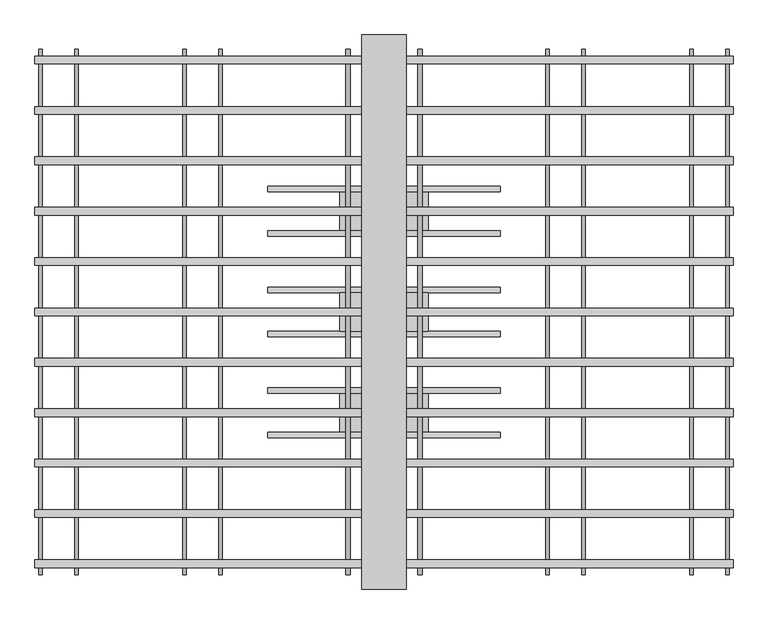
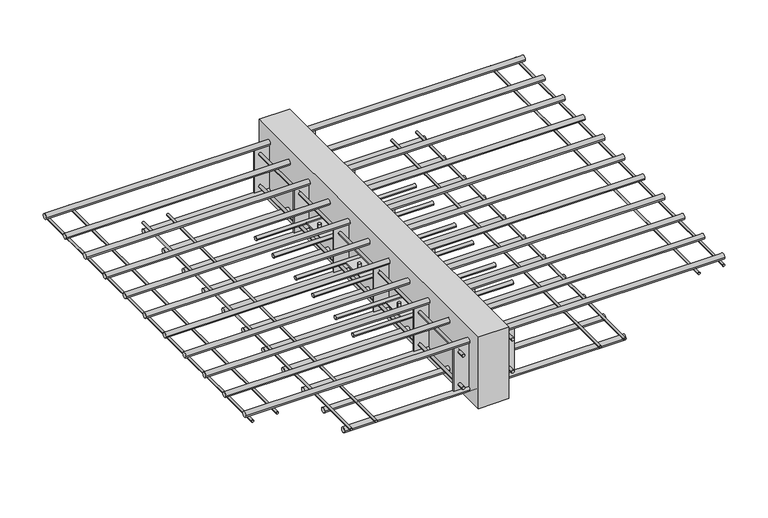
"""IFC4 building model written with IfcOpenShell, lengths in millimetres: proxy geometry, ACINOXplus_Typenreihe_K : KH+ S3."""

from ifc_helpers import new_model, si_unit, point, frame, frame_2d, origin, place, context, project, spatial, polyline, circle_curve, trimmed, segment, composite_curve, outline, extrude, source, transform, mapped, element, save
from ifc_brep_helpers import plane_surface, cylinder_surface, advanced_brep


def generic_models_9565d0d3(model_context):
    return source(origin(), model_context, "Body", "SolidModel", [
        extrude(outline(composite_curve([segment(trimmed(circle_curve(frame_2d((-40.0, -104.0)), 5.0), [point((-45.0, -104.0))], [point((-35.0, -104.0))], False, "CARTESIAN"), True, "CONTINUOUS"), segment(trimmed(circle_curve(frame_2d((-40.0, -104.0)), 5.0), [point((-35.0, -104.0))], [point((-45.0, -104.0))], False, "CARTESIAN"), True, "CONTINUOUS")], self_intersect=False)), frame((-210.0, 0.0, 0.0), z_axis=(1.0, 0.0, 0.0), x_axis=(0.0, 1.0, 0.0)), (0.0, 0.0, 1.0), 420.0),
        extrude(outline(composite_curve([segment(trimmed(circle_curve(frame_2d((40.0, -104.0)), 5.0), [point((35.0, -104.0))], [point((45.0, -104.0))], False, "CARTESIAN"), True, "CONTINUOUS"), segment(trimmed(circle_curve(frame_2d((40.0, -104.0)), 5.0), [point((45.0, -104.0))], [point((35.0, -104.0))], False, "CARTESIAN"), True, "CONTINUOUS")], self_intersect=False)), frame((-210.0, 0.0, 0.0), z_axis=(1.0, 0.0, 0.0), x_axis=(0.0, 1.0, 0.0)), (0.0, 0.0, 1.0), 420.0),
        advanced_brep(
        [(-69.0, 0.0, -89.0), (-61.0, 0.0, -89.0), (61.0, 0.0, -89.0), (69.0, 0.0, -89.0), (-69.0, 0.0, -119.0), (-61.0, 0.0, -119.0), (61.0, 0.0, -119.0), (69.0, 0.0, -119.0), (-69.0, 0.0, -102.5), (-61.0, 0.0, -102.5), (-61.0, 0.0, -105.5), (-69.0, 0.0, -105.5), (61.0, 0.0, -102.5), (69.0, 0.0, -102.5), (69.0, 0.0, -105.5), (61.0, 0.0, -105.5), (80.0, 35.0, -102.5), (-80.0, 35.0, -102.5), (-80.0, -35.0, -102.5), (80.0, -35.0, -102.5), (80.0, 35.0, -105.5), (80.0, -35.0, -105.5), (-80.0, -35.0, -105.5), (-80.0, 35.0, -105.5)],
        [
            (0, 1, circle_curve(frame((-65.0, 0.0, -89.0), z_axis=(0.0, 0.0, 1.0), x_axis=(1.0, 0.0, 0.0)), 4.0)),
            (1, 0, circle_curve(frame((-65.0, 0.0, -89.0), z_axis=(0.0, 0.0, 1.0), x_axis=(1.0, 0.0, 0.0)), 4.0)),
            (2, 3, circle_curve(frame((65.0, 0.0, -89.0), z_axis=(0.0, 0.0, 1.0), x_axis=(1.0, 0.0, 0.0)), 4.0)),
            (3, 2, circle_curve(frame((65.0, 0.0, -89.0), z_axis=(0.0, 0.0, 1.0), x_axis=(1.0, 0.0, 0.0)), 4.0)),
            (4, 5, circle_curve(frame((-65.0, 0.0, -119.0), z_axis=(0.0, 0.0, -1.0), x_axis=(1.0, 0.0, 0.0)), 4.0)),
            (5, 4, circle_curve(frame((-65.0, 0.0, -119.0), z_axis=(0.0, 0.0, -1.0), x_axis=(1.0, 0.0, 0.0)), 4.0)),
            (6, 7, circle_curve(frame((65.0, 0.0, -119.0), z_axis=(0.0, 0.0, -1.0), x_axis=(1.0, 0.0, 0.0)), 4.0)),
            (7, 6, circle_curve(frame((65.0, 0.0, -119.0), z_axis=(0.0, 0.0, -1.0), x_axis=(1.0, 0.0, 0.0)), 4.0)),
            (0, 8),
            (8, 9, circle_curve(frame((-65.0, 0.0, -102.5), z_axis=(0.0, 0.0, 1.0), x_axis=(1.0, 0.0, 0.0)), 4.0)),
            (9, 1),
            (5, 10),
            (10, 11, circle_curve(frame((-65.0, 0.0, -105.5), z_axis=(0.0, 0.0, -1.0), x_axis=(1.0, 0.0, 0.0)), 4.0)),
            (11, 4),
            (9, 8, circle_curve(frame((-65.0, 0.0, -102.5), z_axis=(0.0, 0.0, 1.0), x_axis=(1.0, 0.0, 0.0)), 4.0)),
            (11, 10, circle_curve(frame((-65.0, 0.0, -105.5), z_axis=(0.0, 0.0, -1.0), x_axis=(1.0, 0.0, 0.0)), 4.0)),
            (2, 12),
            (12, 13, circle_curve(frame((65.0, 0.0, -102.5), z_axis=(0.0, 0.0, 1.0), x_axis=(1.0, 0.0, 0.0)), 4.0)),
            (13, 3),
            (7, 14),
            (14, 15, circle_curve(frame((65.0, 0.0, -105.5), z_axis=(0.0, 0.0, -1.0), x_axis=(1.0, 0.0, 0.0)), 4.0)),
            (15, 6),
            (13, 12, circle_curve(frame((65.0, 0.0, -102.5), z_axis=(0.0, 0.0, 1.0), x_axis=(1.0, 0.0, 0.0)), 4.0)),
            (15, 14, circle_curve(frame((65.0, 0.0, -105.5), z_axis=(0.0, 0.0, -1.0), x_axis=(1.0, 0.0, 0.0)), 4.0)),
            (16, 17),
            (17, 18),
            (18, 19),
            (19, 16),
            (20, 21),
            (21, 22),
            (22, 23),
            (23, 20),
            (16, 20),
            (23, 17),
            (22, 18),
            (21, 19),
        ],
        [
            plane_surface(frame((-61.0, 0.0, -89.0), z_axis=(0.0, 0.0, 1.0), x_axis=(0.0, 1.0, 0.0))),
            plane_surface(frame((-61.0, 0.0, -119.0), z_axis=(0.0, 0.0, -1.0), x_axis=(0.0, -1.0, 0.0))),
            cylinder_surface(frame((-65.0, 0.0, -119.0), z_axis=(0.0, 0.0, 1.0), x_axis=(1.0, 0.0, 0.0)), 4.0),
            cylinder_surface(frame((65.0, 0.0, -104.0), z_axis=(0.0, 0.0, 1.0), x_axis=(1.0, 0.0, 0.0)), 4.0),
            plane_surface(frame((-80.0, 35.0, -102.5), z_axis=(0.0, 0.0, 1.0), x_axis=(-1.0, 0.0, 0.0))),
            plane_surface(frame((-80.0, 35.0, -105.5), z_axis=(0.0, 0.0, -1.0), x_axis=(1.0, 0.0, 0.0))),
            plane_surface(frame((80.0, 35.0, -102.5), z_axis=(0.0, 1.0, 0.0), x_axis=(0.0, 0.0, -1.0))),
            plane_surface(frame((-80.0, 35.0, -102.5), z_axis=(-1.0, 0.0, 0.0), x_axis=(0.0, 0.0, -1.0))),
            plane_surface(frame((-80.0, -35.0, -102.5), z_axis=(0.0, -1.0, 0.0), x_axis=(0.0, 0.0, -1.0))),
            plane_surface(frame((80.0, -35.0, -102.5), z_axis=(1.0, 0.0, 0.0), x_axis=(0.0, 0.0, -1.0))),
        ],
        [
            (0, [[1, 2]]),
            (0, [[3, 4]]),
            (1, [[5, 6]]),
            (1, [[7, 8]]),
            (2, [[-1, 9, 10, 11]]),
            (2, [[-6, 12, 13, 14]]),
            (2, [[-2, -11, 15, -9]]),
            (2, [[-5, -14, 16, -12]]),
            (3, [[-3, 17, 18, 19]]),
            (3, [[-8, 20, 21, 22]]),
            (3, [[-4, -19, 23, -17]]),
            (3, [[-7, -22, 24, -20]]),
            (4, [[25, 26, 27, 28], [-10, -15], [-18, -23]]),
            (5, [[29, 30, 31, 32], [-13, -16], [-21, -24]]),
            (6, [[-25, 33, -32, 34]]),
            (7, [[-26, -34, -31, 35]]),
            (8, [[-27, -35, -30, 36]]),
            (9, [[-28, -36, -29, -33]]),
        ],
    ),
        extrude(outline(composite_curve([segment(trimmed(circle_curve(frame_2d((-221.8181818, -104.0)), 5.0), [point((-226.8181818, -104.0))], [point((-216.8181818, -104.0))], False, "CARTESIAN"), True, "CONTINUOUS"), segment(trimmed(circle_curve(frame_2d((-221.8181818, -104.0)), 5.0), [point((-216.8181818, -104.0))], [point((-226.8181818, -104.0))], False, "CARTESIAN"), True, "CONTINUOUS")], self_intersect=False)), frame((-210.0, 0.0, 0.0), z_axis=(1.0, 0.0, 0.0), x_axis=(0.0, 1.0, 0.0)), (0.0, 0.0, 1.0), 420.0),
        extrude(outline(composite_curve([segment(trimmed(circle_curve(frame_2d((-141.8181818, -104.0)), 5.0), [point((-146.8181818, -104.0))], [point((-136.8181818, -104.0))], False, "CARTESIAN"), True, "CONTINUOUS"), segment(trimmed(circle_curve(frame_2d((-141.8181818, -104.0)), 5.0), [point((-136.8181818, -104.0))], [point((-146.8181818, -104.0))], False, "CARTESIAN"), True, "CONTINUOUS")], self_intersect=False)), frame((-210.0, 0.0, 0.0), z_axis=(1.0, 0.0, 0.0), x_axis=(0.0, 1.0, 0.0)), (0.0, 0.0, 1.0), 420.0),
        advanced_brep(
        [(-69.0, -181.8181818, -89.0), (-61.0, -181.8181818, -89.0), (61.0, -181.8181818, -89.0), (69.0, -181.8181818, -89.0), (-69.0, -181.8181818, -119.0), (-61.0, -181.8181818, -119.0), (61.0, -181.8181818, -119.0), (69.0, -181.8181818, -119.0), (-69.0, -181.8181818, -102.5), (-61.0, -181.8181818, -102.5), (-61.0, -181.8181818, -105.5), (-69.0, -181.8181818, -105.5), (61.0, -181.8181818, -102.5), (69.0, -181.8181818, -102.5), (69.0, -181.8181818, -105.5), (61.0, -181.8181818, -105.5), (80.0, -146.8181818, -102.5), (-80.0, -146.8181818, -102.5), (-80.0, -216.8181818, -102.5), (80.0, -216.8181818, -102.5), (80.0, -146.8181818, -105.5), (80.0, -216.8181818, -105.5), (-80.0, -216.8181818, -105.5), (-80.0, -146.8181818, -105.5)],
        [
            (0, 1, circle_curve(frame((-65.0, -181.8181818, -89.0), z_axis=(0.0, 0.0, 1.0), x_axis=(1.0, 0.0, 0.0)), 4.0)),
            (1, 0, circle_curve(frame((-65.0, -181.8181818, -89.0), z_axis=(0.0, 0.0, 1.0), x_axis=(1.0, 0.0, 0.0)), 4.0)),
            (2, 3, circle_curve(frame((65.0, -181.8181818, -89.0), z_axis=(0.0, 0.0, 1.0), x_axis=(1.0, 0.0, 0.0)), 4.0)),
            (3, 2, circle_curve(frame((65.0, -181.8181818, -89.0), z_axis=(0.0, 0.0, 1.0), x_axis=(1.0, 0.0, 0.0)), 4.0)),
            (4, 5, circle_curve(frame((-65.0, -181.8181818, -119.0), z_axis=(0.0, 0.0, -1.0), x_axis=(1.0, 0.0, 0.0)), 4.0)),
            (5, 4, circle_curve(frame((-65.0, -181.8181818, -119.0), z_axis=(0.0, 0.0, -1.0), x_axis=(1.0, 0.0, 0.0)), 4.0)),
            (6, 7, circle_curve(frame((65.0, -181.8181818, -119.0), z_axis=(0.0, 0.0, -1.0), x_axis=(1.0, 0.0, 0.0)), 4.0)),
            (7, 6, circle_curve(frame((65.0, -181.8181818, -119.0), z_axis=(0.0, 0.0, -1.0), x_axis=(1.0, 0.0, 0.0)), 4.0)),
            (0, 8),
            (8, 9, circle_curve(frame((-65.0, -181.8181818, -102.5), z_axis=(0.0, 0.0, 1.0), x_axis=(1.0, 0.0, 0.0)), 4.0)),
            (9, 1),
            (5, 10),
            (10, 11, circle_curve(frame((-65.0, -181.8181818, -105.5), z_axis=(0.0, 0.0, -1.0), x_axis=(1.0, 0.0, 0.0)), 4.0)),
            (11, 4),
            (9, 8, circle_curve(frame((-65.0, -181.8181818, -102.5), z_axis=(0.0, 0.0, 1.0), x_axis=(1.0, 0.0, 0.0)), 4.0)),
            (11, 10, circle_curve(frame((-65.0, -181.8181818, -105.5), z_axis=(0.0, 0.0, -1.0), x_axis=(1.0, 0.0, 0.0)), 4.0)),
            (2, 12),
            (12, 13, circle_curve(frame((65.0, -181.8181818, -102.5), z_axis=(0.0, 0.0, 1.0), x_axis=(1.0, 0.0, 0.0)), 4.0)),
            (13, 3),
            (7, 14),
            (14, 15, circle_curve(frame((65.0, -181.8181818, -105.5), z_axis=(0.0, 0.0, -1.0), x_axis=(1.0, 0.0, 0.0)), 4.0)),
            (15, 6),
            (13, 12, circle_curve(frame((65.0, -181.8181818, -102.5), z_axis=(0.0, 0.0, 1.0), x_axis=(1.0, 0.0, 0.0)), 4.0)),
            (15, 14, circle_curve(frame((65.0, -181.8181818, -105.5), z_axis=(0.0, 0.0, -1.0), x_axis=(1.0, 0.0, 0.0)), 4.0)),
            (16, 17),
            (17, 18),
            (18, 19),
            (19, 16),
            (20, 21),
            (21, 22),
            (22, 23),
            (23, 20),
            (16, 20),
            (23, 17),
            (22, 18),
            (21, 19),
        ],
        [
            plane_surface(frame((-61.0, -181.8181818, -89.0), z_axis=(0.0, 0.0, 1.0), x_axis=(0.0, 1.0, 0.0))),
            plane_surface(frame((-61.0, -181.8181818, -119.0), z_axis=(0.0, 0.0, -1.0), x_axis=(0.0, -1.0, 0.0))),
            cylinder_surface(frame((-65.0, -181.8181818, -119.0), z_axis=(0.0, 0.0, 1.0), x_axis=(1.0, 0.0, 0.0)), 4.0),
            cylinder_surface(frame((65.0, -181.8181818, -104.0), z_axis=(0.0, 0.0, 1.0), x_axis=(1.0, 0.0, 0.0)), 4.0),
            plane_surface(frame((-80.0, -146.8181818, -102.5), z_axis=(0.0, 0.0, 1.0), x_axis=(-1.0, 0.0, 0.0))),
            plane_surface(frame((-80.0, -146.8181818, -105.5), z_axis=(0.0, 0.0, -1.0), x_axis=(1.0, 0.0, 0.0))),
            plane_surface(frame((80.0, -146.8181818, -102.5), z_axis=(0.0, 1.0, 0.0), x_axis=(0.0, 0.0, -1.0))),
            plane_surface(frame((-80.0, -146.8181818, -102.5), z_axis=(-1.0, 0.0, 0.0), x_axis=(0.0, 0.0, -1.0))),
            plane_surface(frame((-80.0, -216.8181818, -102.5), z_axis=(0.0, -1.0, 0.0), x_axis=(0.0, 0.0, -1.0))),
            plane_surface(frame((80.0, -216.8181818, -102.5), z_axis=(1.0, 0.0, 0.0), x_axis=(0.0, 0.0, -1.0))),
        ],
        [
            (0, [[1, 2]]),
            (0, [[3, 4]]),
            (1, [[5, 6]]),
            (1, [[7, 8]]),
            (2, [[-1, 9, 10, 11]]),
            (2, [[-6, 12, 13, 14]]),
            (2, [[-2, -11, 15, -9]]),
            (2, [[-5, -14, 16, -12]]),
            (3, [[-3, 17, 18, 19]]),
            (3, [[-8, 20, 21, 22]]),
            (3, [[-4, -19, 23, -17]]),
            (3, [[-7, -22, 24, -20]]),
            (4, [[25, 26, 27, 28], [-10, -15], [-18, -23]]),
            (5, [[29, 30, 31, 32], [-13, -16], [-21, -24]]),
            (6, [[-25, 33, -32, 34]]),
            (7, [[-26, -34, -31, 35]]),
            (8, [[-27, -35, -30, 36]]),
            (9, [[-28, -36, -29, -33]]),
        ],
    ),
        extrude(outline(composite_curve([segment(trimmed(circle_curve(frame_2d((141.8181818, -104.0)), 5.0), [point((136.8181818, -104.0))], [point((146.8181818, -104.0))], False, "CARTESIAN"), True, "CONTINUOUS"), segment(trimmed(circle_curve(frame_2d((141.8181818, -104.0)), 5.0), [point((146.8181818, -104.0))], [point((136.8181818, -104.0))], False, "CARTESIAN"), True, "CONTINUOUS")], self_intersect=False)), frame((-210.0, 0.0, 0.0), z_axis=(1.0, 0.0, 0.0), x_axis=(0.0, 1.0, 0.0)), (0.0, 0.0, 1.0), 420.0),
        extrude(outline(composite_curve([segment(trimmed(circle_curve(frame_2d((221.8181818, -104.0)), 5.0), [point((216.8181818, -104.0))], [point((226.8181818, -104.0))], False, "CARTESIAN"), True, "CONTINUOUS"), segment(trimmed(circle_curve(frame_2d((221.8181818, -104.0)), 5.0), [point((226.8181818, -104.0))], [point((216.8181818, -104.0))], False, "CARTESIAN"), True, "CONTINUOUS")], self_intersect=False)), frame((-210.0, 0.0, 0.0), z_axis=(1.0, 0.0, 0.0), x_axis=(0.0, 1.0, 0.0)), (0.0, 0.0, 1.0), 420.0),
        advanced_brep(
        [(-69.0, 181.8181818, -89.0), (-61.0, 181.8181818, -89.0), (61.0, 181.8181818, -89.0), (69.0, 181.8181818, -89.0), (-69.0, 181.8181818, -119.0), (-61.0, 181.8181818, -119.0), (61.0, 181.8181818, -119.0), (69.0, 181.8181818, -119.0), (-69.0, 181.8181818, -102.5), (-61.0, 181.8181818, -102.5), (-61.0, 181.8181818, -105.5), (-69.0, 181.8181818, -105.5), (61.0, 181.8181818, -102.5), (69.0, 181.8181818, -102.5), (69.0, 181.8181818, -105.5), (61.0, 181.8181818, -105.5), (80.0, 216.8181818, -102.5), (-80.0, 216.8181818, -102.5), (-80.0, 146.8181818, -102.5), (80.0, 146.8181818, -102.5), (80.0, 216.8181818, -105.5), (80.0, 146.8181818, -105.5), (-80.0, 146.8181818, -105.5), (-80.0, 216.8181818, -105.5)],
        [
            (0, 1, circle_curve(frame((-65.0, 181.8181818, -89.0), z_axis=(0.0, 0.0, 1.0), x_axis=(1.0, 0.0, 0.0)), 4.0)),
            (1, 0, circle_curve(frame((-65.0, 181.8181818, -89.0), z_axis=(0.0, 0.0, 1.0), x_axis=(1.0, 0.0, 0.0)), 4.0)),
            (2, 3, circle_curve(frame((65.0, 181.8181818, -89.0), z_axis=(0.0, 0.0, 1.0), x_axis=(1.0, 0.0, 0.0)), 4.0)),
            (3, 2, circle_curve(frame((65.0, 181.8181818, -89.0), z_axis=(0.0, 0.0, 1.0), x_axis=(1.0, 0.0, 0.0)), 4.0)),
            (4, 5, circle_curve(frame((-65.0, 181.8181818, -119.0), z_axis=(0.0, 0.0, -1.0), x_axis=(1.0, 0.0, 0.0)), 4.0)),
            (5, 4, circle_curve(frame((-65.0, 181.8181818, -119.0), z_axis=(0.0, 0.0, -1.0), x_axis=(1.0, 0.0, 0.0)), 4.0)),
            (6, 7, circle_curve(frame((65.0, 181.8181818, -119.0), z_axis=(0.0, 0.0, -1.0), x_axis=(1.0, 0.0, 0.0)), 4.0)),
            (7, 6, circle_curve(frame((65.0, 181.8181818, -119.0), z_axis=(0.0, 0.0, -1.0), x_axis=(1.0, 0.0, 0.0)), 4.0)),
            (0, 8),
            (8, 9, circle_curve(frame((-65.0, 181.8181818, -102.5), z_axis=(0.0, 0.0, 1.0), x_axis=(1.0, 0.0, 0.0)), 4.0)),
            (9, 1),
            (5, 10),
            (10, 11, circle_curve(frame((-65.0, 181.8181818, -105.5), z_axis=(0.0, 0.0, -1.0), x_axis=(1.0, 0.0, 0.0)), 4.0)),
            (11, 4),
            (9, 8, circle_curve(frame((-65.0, 181.8181818, -102.5), z_axis=(0.0, 0.0, 1.0), x_axis=(1.0, 0.0, 0.0)), 4.0)),
            (11, 10, circle_curve(frame((-65.0, 181.8181818, -105.5), z_axis=(0.0, 0.0, -1.0), x_axis=(1.0, 0.0, 0.0)), 4.0)),
            (2, 12),
            (12, 13, circle_curve(frame((65.0, 181.8181818, -102.5), z_axis=(0.0, 0.0, 1.0), x_axis=(1.0, 0.0, 0.0)), 4.0)),
            (13, 3),
            (7, 14),
            (14, 15, circle_curve(frame((65.0, 181.8181818, -105.5), z_axis=(0.0, 0.0, -1.0), x_axis=(1.0, 0.0, 0.0)), 4.0)),
            (15, 6),
            (13, 12, circle_curve(frame((65.0, 181.8181818, -102.5), z_axis=(0.0, 0.0, 1.0), x_axis=(1.0, 0.0, 0.0)), 4.0)),
            (15, 14, circle_curve(frame((65.0, 181.8181818, -105.5), z_axis=(0.0, 0.0, -1.0), x_axis=(1.0, 0.0, 0.0)), 4.0)),
            (16, 17),
            (17, 18),
            (18, 19),
            (19, 16),
            (20, 21),
            (21, 22),
            (22, 23),
            (23, 20),
            (16, 20),
            (23, 17),
            (22, 18),
            (21, 19),
        ],
        [
            plane_surface(frame((-61.0, 181.8181818, -89.0), z_axis=(0.0, 0.0, 1.0), x_axis=(0.0, 1.0, 0.0))),
            plane_surface(frame((-61.0, 181.8181818, -119.0), z_axis=(0.0, 0.0, -1.0), x_axis=(0.0, -1.0, 0.0))),
            cylinder_surface(frame((-65.0, 181.8181818, -119.0), z_axis=(0.0, 0.0, 1.0), x_axis=(1.0, 0.0, 0.0)), 4.0),
            cylinder_surface(frame((65.0, 181.8181818, -104.0), z_axis=(0.0, 0.0, 1.0), x_axis=(1.0, 0.0, 0.0)), 4.0),
            plane_surface(frame((-80.0, 216.8181818, -102.5), z_axis=(0.0, 0.0, 1.0), x_axis=(-1.0, 0.0, 0.0))),
            plane_surface(frame((-80.0, 216.8181818, -105.5), z_axis=(0.0, 0.0, -1.0), x_axis=(1.0, 0.0, 0.0))),
            plane_surface(frame((80.0, 216.8181818, -102.5), z_axis=(0.0, 1.0, 0.0), x_axis=(0.0, 0.0, -1.0))),
            plane_surface(frame((-80.0, 216.8181818, -102.5), z_axis=(-1.0, 0.0, 0.0), x_axis=(0.0, 0.0, -1.0))),
            plane_surface(frame((-80.0, 146.8181818, -102.5), z_axis=(0.0, -1.0, 0.0), x_axis=(0.0, 0.0, -1.0))),
            plane_surface(frame((80.0, 146.8181818, -102.5), z_axis=(1.0, 0.0, 0.0), x_axis=(0.0, 0.0, -1.0))),
        ],
        [
            (0, [[1, 2]]),
            (0, [[3, 4]]),
            (1, [[5, 6]]),
            (1, [[7, 8]]),
            (2, [[-1, 9, 10, 11]]),
            (2, [[-6, 12, 13, 14]]),
            (2, [[-2, -11, 15, -9]]),
            (2, [[-5, -14, 16, -12]]),
            (3, [[-3, 17, 18, 19]]),
            (3, [[-8, 20, 21, 22]]),
            (3, [[-4, -19, 23, -17]]),
            (3, [[-7, -22, 24, -20]]),
            (4, [[25, 26, 27, 28], [-10, -15], [-18, -23]]),
            (5, [[29, 30, 31, 32], [-13, -16], [-21, -24]]),
            (6, [[-25, 33, -32, 34]]),
            (7, [[-26, -34, -31, 35]]),
            (8, [[-27, -35, -30, 36]]),
            (9, [[-28, -36, -29, -33]]),
        ],
    ),
        extrude(outline(polyline([(40.0, 500.0), (40.0, -500.0), (-40.0, -500.0), (-40.0, 500.0), (40.0, 500.0)])), frame((0.0, 0.0, -200.0), z_axis=(0.0, 0.0, 1.0), x_axis=(1.0, 0.0, 0.0)), (0.0, 0.0, 1.0), 200.0),
        extrude(outline(polyline([(80.0, -271.2272727), (80.0, -274.2272727), (-80.0, -274.2272727), (-80.0, -271.2272727), (80.0, -271.2272727)])), frame((0.0, 0.0, -164.0), z_axis=(0.0, 0.0, 1.0), x_axis=(1.0, 0.0, 0.0)), (0.0, 0.0, 1.0), 120.0),
        extrude(outline(polyline([(80.0, -89.4090909), (80.0, -92.4090909), (-80.0, -92.4090909), (-80.0, -89.4090909), (80.0, -89.4090909)])), frame((0.0, 0.0, -164.0), z_axis=(0.0, 0.0, 1.0), x_axis=(1.0, 0.0, 0.0)), (0.0, 0.0, 1.0), 120.0),
        extrude(outline(polyline([(80.0, 92.4090909), (80.0, 89.4090909), (-80.0, 89.4090909), (-80.0, 92.4090909), (80.0, 92.4090909)])), frame((0.0, 0.0, -164.0), z_axis=(0.0, 0.0, 1.0), x_axis=(1.0, 0.0, 0.0)), (0.0, 0.0, 1.0), 120.0),
        extrude(outline(polyline([(80.0, 274.2272727), (80.0, 271.2272727), (-80.0, 271.2272727), (-80.0, 274.2272727), (80.0, 274.2272727)])), frame((0.0, 0.0, -164.0), z_axis=(0.0, 0.0, 1.0), x_axis=(1.0, 0.0, 0.0)), (0.0, 0.0, 1.0), 120.0),
        extrude(outline(polyline([(80.0, -453.0454545), (80.0, -456.0454545), (-80.0, -456.0454545), (-80.0, -453.0454545), (80.0, -453.0454545)])), frame((0.0, 0.0, -164.0), z_axis=(0.0, 0.0, 1.0), x_axis=(1.0, 0.0, 0.0)), (0.0, 0.0, 1.0), 120.0),
        extrude(outline(polyline([(80.0, 456.0454545), (80.0, 453.0454545), (-80.0, 453.0454545), (-80.0, 456.0454545), (80.0, 456.0454545)])), frame((0.0, 0.0, -164.0), z_axis=(0.0, 0.0, 1.0), x_axis=(1.0, 0.0, 0.0)), (0.0, 0.0, 1.0), 120.0),
        extrude(outline(composite_curve([segment(trimmed(circle_curve(frame_2d((-149.0, -65.0)), 4.0), [point((-149.0, -61.0))], [point((-149.0, -69.0))], False, "CARTESIAN"), True, "CONTINUOUS"), segment(trimmed(circle_curve(frame_2d((-149.0, -65.0)), 4.0), [point((-149.0, -69.0))], [point((-149.0, -61.0))], False, "CARTESIAN"), True, "CONTINUOUS")], self_intersect=False)), frame((0.0, -474.5454545, 0.0), z_axis=(0.0, 1.0, 0.0), x_axis=(0.0, 0.0, 1.0)), (0.0, 0.0, 1.0), 18.5),
        extrude(outline(composite_curve([segment(trimmed(circle_curve(frame_2d((-149.0, -65.0)), 4.0), [point((-149.0, -69.0))], [point((-149.0, -61.0))], False, "CARTESIAN"), True, "CONTINUOUS"), segment(trimmed(circle_curve(frame_2d((-149.0, -65.0)), 4.0), [point((-149.0, -61.0))], [point((-149.0, -69.0))], False, "CARTESIAN"), True, "CONTINUOUS")], self_intersect=False)), frame((0.0, -453.0454545, 0.0), z_axis=(0.0, 1.0, 0.0), x_axis=(0.0, 0.0, 1.0)), (0.0, 0.0, 1.0), 724.2727273),
        extrude(outline(composite_curve([segment(trimmed(circle_curve(frame_2d((-149.0, -65.0)), 4.0), [point((-149.0, -69.0))], [point((-149.0, -61.0))], False, "CARTESIAN"), True, "CONTINUOUS"), segment(trimmed(circle_curve(frame_2d((-149.0, -65.0)), 4.0), [point((-149.0, -61.0))], [point((-149.0, -69.0))], False, "CARTESIAN"), True, "CONTINUOUS")], self_intersect=False)), frame((0.0, 456.0454545, 0.0), z_axis=(0.0, 1.0, 0.0), x_axis=(0.0, 0.0, 1.0)), (0.0, 0.0, 1.0), 18.5),
        extrude(outline(composite_curve([segment(trimmed(circle_curve(frame_2d((-149.0, -65.0)), 4.0), [point((-149.0, -69.0))], [point((-149.0, -61.0))], False, "CARTESIAN"), True, "CONTINUOUS"), segment(trimmed(circle_curve(frame_2d((-149.0, -65.0)), 4.0), [point((-149.0, -61.0))], [point((-149.0, -69.0))], False, "CARTESIAN"), True, "CONTINUOUS")], self_intersect=False)), frame((0.0, 274.2272727, 0.0), z_axis=(0.0, 1.0, 0.0), x_axis=(0.0, 0.0, 1.0)), (0.0, 0.0, 1.0), 178.8181818),
        extrude(outline(composite_curve([segment(trimmed(circle_curve(frame_2d((-149.0, 65.0)), 4.0), [point((-149.0, 69.0))], [point((-149.0, 61.0))], False, "CARTESIAN"), True, "CONTINUOUS"), segment(trimmed(circle_curve(frame_2d((-149.0, 65.0)), 4.0), [point((-149.0, 61.0))], [point((-149.0, 69.0))], False, "CARTESIAN"), True, "CONTINUOUS")], self_intersect=False)), frame((0.0, -474.5454545, 0.0), z_axis=(0.0, 1.0, 0.0), x_axis=(0.0, 0.0, 1.0)), (0.0, 0.0, 1.0), 18.5),
        extrude(outline(composite_curve([segment(trimmed(circle_curve(frame_2d((-149.0, 65.0)), 4.0), [point((-149.0, 61.0))], [point((-149.0, 69.0))], False, "CARTESIAN"), True, "CONTINUOUS"), segment(trimmed(circle_curve(frame_2d((-149.0, 65.0)), 4.0), [point((-149.0, 69.0))], [point((-149.0, 61.0))], False, "CARTESIAN"), True, "CONTINUOUS")], self_intersect=False)), frame((0.0, -453.0454545, 0.0), z_axis=(0.0, 1.0, 0.0), x_axis=(0.0, 0.0, 1.0)), (0.0, 0.0, 1.0), 724.2727273),
        extrude(outline(composite_curve([segment(trimmed(circle_curve(frame_2d((-149.0, 65.0)), 4.0), [point((-149.0, 61.0))], [point((-149.0, 69.0))], False, "CARTESIAN"), True, "CONTINUOUS"), segment(trimmed(circle_curve(frame_2d((-149.0, 65.0)), 4.0), [point((-149.0, 69.0))], [point((-149.0, 61.0))], False, "CARTESIAN"), True, "CONTINUOUS")], self_intersect=False)), frame((0.0, 456.0454545, 0.0), z_axis=(0.0, 1.0, 0.0), x_axis=(0.0, 0.0, 1.0)), (0.0, 0.0, 1.0), 18.5),
        extrude(outline(composite_curve([segment(trimmed(circle_curve(frame_2d((-149.0, 65.0)), 4.0), [point((-149.0, 61.0))], [point((-149.0, 69.0))], False, "CARTESIAN"), True, "CONTINUOUS"), segment(trimmed(circle_curve(frame_2d((-149.0, 65.0)), 4.0), [point((-149.0, 69.0))], [point((-149.0, 61.0))], False, "CARTESIAN"), True, "CONTINUOUS")], self_intersect=False)), frame((0.0, 274.2272727, 0.0), z_axis=(0.0, 1.0, 0.0), x_axis=(0.0, 0.0, 1.0)), (0.0, 0.0, 1.0), 178.8181818),
        extrude(outline(composite_curve([segment(trimmed(circle_curve(frame_2d((-59.0, -65.0)), 4.0), [point((-59.0, -61.0))], [point((-59.0, -69.0))], False, "CARTESIAN"), True, "CONTINUOUS"), segment(trimmed(circle_curve(frame_2d((-59.0, -65.0)), 4.0), [point((-59.0, -69.0))], [point((-59.0, -61.0))], False, "CARTESIAN"), True, "CONTINUOUS")], self_intersect=False)), frame((0.0, -474.5454545, 0.0), z_axis=(0.0, 1.0, 0.0), x_axis=(0.0, 0.0, 1.0)), (0.0, 0.0, 1.0), 18.5),
        extrude(outline(composite_curve([segment(trimmed(circle_curve(frame_2d((-59.0, -65.0)), 4.0), [point((-59.0, -69.0))], [point((-59.0, -61.0))], False, "CARTESIAN"), True, "CONTINUOUS"), segment(trimmed(circle_curve(frame_2d((-59.0, -65.0)), 4.0), [point((-59.0, -61.0))], [point((-59.0, -69.0))], False, "CARTESIAN"), True, "CONTINUOUS")], self_intersect=False)), frame((0.0, -453.0454545, 0.0), z_axis=(0.0, 1.0, 0.0), x_axis=(0.0, 0.0, 1.0)), (0.0, 0.0, 1.0), 724.2727273),
        extrude(outline(composite_curve([segment(trimmed(circle_curve(frame_2d((-59.0, -65.0)), 4.0), [point((-59.0, -69.0))], [point((-59.0, -61.0))], False, "CARTESIAN"), True, "CONTINUOUS"), segment(trimmed(circle_curve(frame_2d((-59.0, -65.0)), 4.0), [point((-59.0, -61.0))], [point((-59.0, -69.0))], False, "CARTESIAN"), True, "CONTINUOUS")], self_intersect=False)), frame((0.0, 456.0454545, 0.0), z_axis=(0.0, 1.0, 0.0), x_axis=(0.0, 0.0, 1.0)), (0.0, 0.0, 1.0), 18.5),
        extrude(outline(composite_curve([segment(trimmed(circle_curve(frame_2d((-59.0, -65.0)), 4.0), [point((-59.0, -69.0))], [point((-59.0, -61.0))], False, "CARTESIAN"), True, "CONTINUOUS"), segment(trimmed(circle_curve(frame_2d((-59.0, -65.0)), 4.0), [point((-59.0, -61.0))], [point((-59.0, -69.0))], False, "CARTESIAN"), True, "CONTINUOUS")], self_intersect=False)), frame((0.0, 274.2272727, 0.0), z_axis=(0.0, 1.0, 0.0), x_axis=(0.0, 0.0, 1.0)), (0.0, 0.0, 1.0), 178.8181818),
        extrude(outline(composite_curve([segment(trimmed(circle_curve(frame_2d((-59.0, 65.0)), 4.0), [point((-59.0, 69.0))], [point((-59.0, 61.0))], False, "CARTESIAN"), True, "CONTINUOUS"), segment(trimmed(circle_curve(frame_2d((-59.0, 65.0)), 4.0), [point((-59.0, 61.0))], [point((-59.0, 69.0))], False, "CARTESIAN"), True, "CONTINUOUS")], self_intersect=False)), frame((0.0, -474.5454545, 0.0), z_axis=(0.0, 1.0, 0.0), x_axis=(0.0, 0.0, 1.0)), (0.0, 0.0, 1.0), 18.5),
        extrude(outline(composite_curve([segment(trimmed(circle_curve(frame_2d((-59.0, 65.0)), 4.0), [point((-59.0, 61.0))], [point((-59.0, 69.0))], False, "CARTESIAN"), True, "CONTINUOUS"), segment(trimmed(circle_curve(frame_2d((-59.0, 65.0)), 4.0), [point((-59.0, 69.0))], [point((-59.0, 61.0))], False, "CARTESIAN"), True, "CONTINUOUS")], self_intersect=False)), frame((0.0, -453.0454545, 0.0), z_axis=(0.0, 1.0, 0.0), x_axis=(0.0, 0.0, 1.0)), (0.0, 0.0, 1.0), 724.2727273),
        extrude(outline(composite_curve([segment(trimmed(circle_curve(frame_2d((-59.0, 65.0)), 4.0), [point((-59.0, 61.0))], [point((-59.0, 69.0))], False, "CARTESIAN"), True, "CONTINUOUS"), segment(trimmed(circle_curve(frame_2d((-59.0, 65.0)), 4.0), [point((-59.0, 69.0))], [point((-59.0, 61.0))], False, "CARTESIAN"), True, "CONTINUOUS")], self_intersect=False)), frame((0.0, 456.0454545, 0.0), z_axis=(0.0, 1.0, 0.0), x_axis=(0.0, 0.0, 1.0)), (0.0, 0.0, 1.0), 18.5),
        extrude(outline(composite_curve([segment(trimmed(circle_curve(frame_2d((-59.0, 65.0)), 4.0), [point((-59.0, 61.0))], [point((-59.0, 69.0))], False, "CARTESIAN"), True, "CONTINUOUS"), segment(trimmed(circle_curve(frame_2d((-59.0, 65.0)), 4.0), [point((-59.0, 69.0))], [point((-59.0, 61.0))], False, "CARTESIAN"), True, "CONTINUOUS")], self_intersect=False)), frame((0.0, 274.2272727, 0.0), z_axis=(0.0, 1.0, 0.0), x_axis=(0.0, 0.0, 1.0)), (0.0, 0.0, 1.0), 178.8181818),
        extrude(outline(composite_curve([segment(trimmed(circle_curve(frame_2d((272.7272727, -171.0)), 7.0), [point((265.7272727, -171.0))], [point((279.7272727, -171.0))], False, "CARTESIAN"), True, "CONTINUOUS"), segment(trimmed(circle_curve(frame_2d((272.7272727, -171.0)), 7.0), [point((279.7272727, -171.0))], [point((265.7272727, -171.0))], False, "CARTESIAN"), True, "CONTINUOUS")], self_intersect=False)), frame((-370.0, 0.0, 0.0), z_axis=(1.0, 0.0, 0.0), x_axis=(0.0, 1.0, 0.0)), (0.0, 0.0, 1.0), 740.0),
        extrude(outline(composite_curve([segment(trimmed(circle_curve(frame_2d((181.8181818, -171.0)), 7.0), [point((174.8181818, -171.0))], [point((188.8181818, -171.0))], False, "CARTESIAN"), True, "CONTINUOUS"), segment(trimmed(circle_curve(frame_2d((181.8181818, -171.0)), 7.0), [point((188.8181818, -171.0))], [point((174.8181818, -171.0))], False, "CARTESIAN"), True, "CONTINUOUS")], self_intersect=False)), frame((-370.0, 0.0, 0.0), z_axis=(1.0, 0.0, 0.0), x_axis=(0.0, 1.0, 0.0)), (0.0, 0.0, 1.0), 740.0),
        extrude(outline(composite_curve([segment(trimmed(circle_curve(frame_2d((90.9090909, -171.0)), 7.0), [point((83.9090909, -171.0))], [point((97.9090909, -171.0))], False, "CARTESIAN"), True, "CONTINUOUS"), segment(trimmed(circle_curve(frame_2d((90.9090909, -171.0)), 7.0), [point((97.9090909, -171.0))], [point((83.9090909, -171.0))], False, "CARTESIAN"), True, "CONTINUOUS")], self_intersect=False)), frame((-370.0, 0.0, 0.0), z_axis=(1.0, 0.0, 0.0), x_axis=(0.0, 1.0, 0.0)), (0.0, 0.0, 1.0), 740.0),
        extrude(outline(composite_curve([segment(trimmed(circle_curve(frame_2d((0.0, -171.0)), 7.0), [point((-7.0, -171.0))], [point((7.0, -171.0))], False, "CARTESIAN"), True, "CONTINUOUS"), segment(trimmed(circle_curve(frame_2d((0.0, -171.0)), 7.0), [point((7.0, -171.0))], [point((-7.0, -171.0))], False, "CARTESIAN"), True, "CONTINUOUS")], self_intersect=False)), frame((-370.0, 0.0, 0.0), z_axis=(1.0, 0.0, 0.0), x_axis=(0.0, 1.0, 0.0)), (0.0, 0.0, 1.0), 740.0),
        extrude(outline(composite_curve([segment(trimmed(circle_curve(frame_2d((-90.9090909, -171.0)), 7.0), [point((-97.9090909, -171.0))], [point((-83.9090909, -171.0))], False, "CARTESIAN"), True, "CONTINUOUS"), segment(trimmed(circle_curve(frame_2d((-90.9090909, -171.0)), 7.0), [point((-83.9090909, -171.0))], [point((-97.9090909, -171.0))], False, "CARTESIAN"), True, "CONTINUOUS")], self_intersect=False)), frame((-370.0, 0.0, 0.0), z_axis=(1.0, 0.0, 0.0), x_axis=(0.0, 1.0, 0.0)), (0.0, 0.0, 1.0), 740.0),
        extrude(outline(composite_curve([segment(trimmed(circle_curve(frame_2d((-181.8181818, -171.0)), 7.0), [point((-188.8181818, -171.0))], [point((-174.8181818, -171.0))], False, "CARTESIAN"), True, "CONTINUOUS"), segment(trimmed(circle_curve(frame_2d((-181.8181818, -171.0)), 7.0), [point((-174.8181818, -171.0))], [point((-188.8181818, -171.0))], False, "CARTESIAN"), True, "CONTINUOUS")], self_intersect=False)), frame((-370.0, 0.0, 0.0), z_axis=(1.0, 0.0, 0.0), x_axis=(0.0, 1.0, 0.0)), (0.0, 0.0, 1.0), 740.0),
        extrude(outline(composite_curve([segment(trimmed(circle_curve(frame_2d((-272.7272727, -171.0)), 7.0), [point((-279.7272727, -171.0))], [point((-265.7272727, -171.0))], False, "CARTESIAN"), True, "CONTINUOUS"), segment(trimmed(circle_curve(frame_2d((-272.7272727, -171.0)), 7.0), [point((-265.7272727, -171.0))], [point((-279.7272727, -171.0))], False, "CARTESIAN"), True, "CONTINUOUS")], self_intersect=False)), frame((-370.0, 0.0, 0.0), z_axis=(1.0, 0.0, 0.0), x_axis=(0.0, 1.0, 0.0)), (0.0, 0.0, 1.0), 740.0),
        extrude(outline(composite_curve([segment(trimmed(circle_curve(frame_2d((363.6363636, -171.0)), 7.0), [point((356.6363636, -171.0))], [point((370.6363636, -171.0))], False, "CARTESIAN"), True, "CONTINUOUS"), segment(trimmed(circle_curve(frame_2d((363.6363636, -171.0)), 7.0), [point((370.6363636, -171.0))], [point((356.6363636, -171.0))], False, "CARTESIAN"), True, "CONTINUOUS")], self_intersect=False)), frame((-370.0, 0.0, 0.0), z_axis=(1.0, 0.0, 0.0), x_axis=(0.0, 1.0, 0.0)), (0.0, 0.0, 1.0), 740.0),
        extrude(outline(composite_curve([segment(trimmed(circle_curve(frame_2d((454.5454545, -171.0)), 7.0), [point((447.5454545, -171.0))], [point((461.5454545, -171.0))], False, "CARTESIAN"), True, "CONTINUOUS"), segment(trimmed(circle_curve(frame_2d((454.5454545, -171.0)), 7.0), [point((461.5454545, -171.0))], [point((447.5454545, -171.0))], False, "CARTESIAN"), True, "CONTINUOUS")], self_intersect=False)), frame((-370.0, 0.0, 0.0), z_axis=(1.0, 0.0, 0.0), x_axis=(0.0, 1.0, 0.0)), (0.0, 0.0, 1.0), 740.0),
        extrude(outline(composite_curve([segment(trimmed(circle_curve(frame_2d((-363.6363636, -171.0)), 7.0), [point((-370.6363636, -171.0))], [point((-356.6363636, -171.0))], False, "CARTESIAN"), True, "CONTINUOUS"), segment(trimmed(circle_curve(frame_2d((-363.6363636, -171.0)), 7.0), [point((-356.6363636, -171.0))], [point((-370.6363636, -171.0))], False, "CARTESIAN"), True, "CONTINUOUS")], self_intersect=False)), frame((-370.0, 0.0, 0.0), z_axis=(1.0, 0.0, 0.0), x_axis=(0.0, 1.0, 0.0)), (0.0, 0.0, 1.0), 740.0),
        extrude(outline(composite_curve([segment(trimmed(circle_curve(frame_2d((-454.5454545, -171.0)), 7.0), [point((-461.5454545, -171.0))], [point((-447.5454545, -171.0))], False, "CARTESIAN"), True, "CONTINUOUS"), segment(trimmed(circle_curve(frame_2d((-454.5454545, -171.0)), 7.0), [point((-447.5454545, -171.0))], [point((-461.5454545, -171.0))], False, "CARTESIAN"), True, "CONTINUOUS")], self_intersect=False)), frame((-370.0, 0.0, 0.0), z_axis=(1.0, 0.0, 0.0), x_axis=(0.0, 1.0, 0.0)), (0.0, 0.0, 1.0), 740.0),
        extrude(outline(composite_curve([segment(trimmed(circle_curve(frame_2d((272.7272727, -37.0)), 7.0), [point((265.7272727, -37.0))], [point((279.7272727, -37.0))], False, "CARTESIAN"), True, "CONTINUOUS"), segment(trimmed(circle_curve(frame_2d((272.7272727, -37.0)), 7.0), [point((279.7272727, -37.0))], [point((265.7272727, -37.0))], False, "CARTESIAN"), True, "CONTINUOUS")], self_intersect=False)), frame((-630.0, 0.0, 0.0), z_axis=(1.0, 0.0, 0.0), x_axis=(0.0, 1.0, 0.0)), (0.0, 0.0, 1.0), 1260.0),
        extrude(outline(composite_curve([segment(trimmed(circle_curve(frame_2d((181.8181818, -37.0)), 7.0), [point((174.8181818, -37.0))], [point((188.8181818, -37.0))], False, "CARTESIAN"), True, "CONTINUOUS"), segment(trimmed(circle_curve(frame_2d((181.8181818, -37.0)), 7.0), [point((188.8181818, -37.0))], [point((174.8181818, -37.0))], False, "CARTESIAN"), True, "CONTINUOUS")], self_intersect=False)), frame((-630.0, 0.0, 0.0), z_axis=(1.0, 0.0, 0.0), x_axis=(0.0, 1.0, 0.0)), (0.0, 0.0, 1.0), 1260.0),
        extrude(outline(composite_curve([segment(trimmed(circle_curve(frame_2d((90.9090909, -37.0)), 7.0), [point((83.9090909, -37.0))], [point((97.9090909, -37.0))], False, "CARTESIAN"), True, "CONTINUOUS"), segment(trimmed(circle_curve(frame_2d((90.9090909, -37.0)), 7.0), [point((97.9090909, -37.0))], [point((83.9090909, -37.0))], False, "CARTESIAN"), True, "CONTINUOUS")], self_intersect=False)), frame((-630.0, 0.0, 0.0), z_axis=(1.0, 0.0, 0.0), x_axis=(0.0, 1.0, 0.0)), (0.0, 0.0, 1.0), 1260.0),
        extrude(outline(composite_curve([segment(trimmed(circle_curve(frame_2d((0.0, -37.0)), 7.0), [point((-7.0, -37.0))], [point((7.0, -37.0))], False, "CARTESIAN"), True, "CONTINUOUS"), segment(trimmed(circle_curve(frame_2d((0.0, -37.0)), 7.0), [point((7.0, -37.0))], [point((-7.0, -37.0))], False, "CARTESIAN"), True, "CONTINUOUS")], self_intersect=False)), frame((-630.0, 0.0, 0.0), z_axis=(1.0, 0.0, 0.0), x_axis=(0.0, 1.0, 0.0)), (0.0, 0.0, 1.0), 1260.0),
        extrude(outline(composite_curve([segment(trimmed(circle_curve(frame_2d((-90.9090909, -37.0)), 7.0), [point((-97.9090909, -37.0))], [point((-83.9090909, -37.0))], False, "CARTESIAN"), True, "CONTINUOUS"), segment(trimmed(circle_curve(frame_2d((-90.9090909, -37.0)), 7.0), [point((-83.9090909, -37.0))], [point((-97.9090909, -37.0))], False, "CARTESIAN"), True, "CONTINUOUS")], self_intersect=False)), frame((-630.0, 0.0, 0.0), z_axis=(1.0, 0.0, 0.0), x_axis=(0.0, 1.0, 0.0)), (0.0, 0.0, 1.0), 1260.0),
        extrude(outline(composite_curve([segment(trimmed(circle_curve(frame_2d((-181.8181818, -37.0)), 7.0), [point((-188.8181818, -37.0))], [point((-174.8181818, -37.0))], False, "CARTESIAN"), True, "CONTINUOUS"), segment(trimmed(circle_curve(frame_2d((-181.8181818, -37.0)), 7.0), [point((-174.8181818, -37.0))], [point((-188.8181818, -37.0))], False, "CARTESIAN"), True, "CONTINUOUS")], self_intersect=False)), frame((-630.0, 0.0, 0.0), z_axis=(1.0, 0.0, 0.0), x_axis=(0.0, 1.0, 0.0)), (0.0, 0.0, 1.0), 1260.0),
        extrude(outline(composite_curve([segment(trimmed(circle_curve(frame_2d((-272.7272727, -37.0)), 7.0), [point((-279.7272727, -37.0))], [point((-265.7272727, -37.0))], False, "CARTESIAN"), True, "CONTINUOUS"), segment(trimmed(circle_curve(frame_2d((-272.7272727, -37.0)), 7.0), [point((-265.7272727, -37.0))], [point((-279.7272727, -37.0))], False, "CARTESIAN"), True, "CONTINUOUS")], self_intersect=False)), frame((-630.0, 0.0, 0.0), z_axis=(1.0, 0.0, 0.0), x_axis=(0.0, 1.0, 0.0)), (0.0, 0.0, 1.0), 1260.0),
        extrude(outline(composite_curve([segment(trimmed(circle_curve(frame_2d((363.6363636, -37.0)), 7.0), [point((356.6363636, -37.0))], [point((370.6363636, -37.0))], False, "CARTESIAN"), True, "CONTINUOUS"), segment(trimmed(circle_curve(frame_2d((363.6363636, -37.0)), 7.0), [point((370.6363636, -37.0))], [point((356.6363636, -37.0))], False, "CARTESIAN"), True, "CONTINUOUS")], self_intersect=False)), frame((-630.0, 0.0, 0.0), z_axis=(1.0, 0.0, 0.0), x_axis=(0.0, 1.0, 0.0)), (0.0, 0.0, 1.0), 1260.0),
        extrude(outline(composite_curve([segment(trimmed(circle_curve(frame_2d((454.5454545, -37.0)), 7.0), [point((447.5454545, -37.0))], [point((461.5454545, -37.0))], False, "CARTESIAN"), True, "CONTINUOUS"), segment(trimmed(circle_curve(frame_2d((454.5454545, -37.0)), 7.0), [point((461.5454545, -37.0))], [point((447.5454545, -37.0))], False, "CARTESIAN"), True, "CONTINUOUS")], self_intersect=False)), frame((-630.0, 0.0, 0.0), z_axis=(1.0, 0.0, 0.0), x_axis=(0.0, 1.0, 0.0)), (0.0, 0.0, 1.0), 1260.0),
        extrude(outline(composite_curve([segment(trimmed(circle_curve(frame_2d((-363.6363636, -37.0)), 7.0), [point((-370.6363636, -37.0))], [point((-356.6363636, -37.0))], False, "CARTESIAN"), True, "CONTINUOUS"), segment(trimmed(circle_curve(frame_2d((-363.6363636, -37.0)), 7.0), [point((-356.6363636, -37.0))], [point((-370.6363636, -37.0))], False, "CARTESIAN"), True, "CONTINUOUS")], self_intersect=False)), frame((-630.0, 0.0, 0.0), z_axis=(1.0, 0.0, 0.0), x_axis=(0.0, 1.0, 0.0)), (0.0, 0.0, 1.0), 1260.0),
        extrude(outline(composite_curve([segment(trimmed(circle_curve(frame_2d((-454.5454545, -37.0)), 7.0), [point((-461.5454545, -37.0))], [point((-447.5454545, -37.0))], False, "CARTESIAN"), True, "CONTINUOUS"), segment(trimmed(circle_curve(frame_2d((-454.5454545, -37.0)), 7.0), [point((-447.5454545, -37.0))], [point((-461.5454545, -37.0))], False, "CARTESIAN"), True, "CONTINUOUS")], self_intersect=False)), frame((-630.0, 0.0, 0.0), z_axis=(1.0, 0.0, 0.0), x_axis=(0.0, 1.0, 0.0)), (0.0, 0.0, 1.0), 1260.0),
        extrude(outline(composite_curve([segment(trimmed(circle_curve(frame_2d((-161.0, -360.0)), 3.0), [point((-161.0, -357.0))], [point((-161.0, -363.0))], False, "CARTESIAN"), True, "CONTINUOUS"), segment(trimmed(circle_curve(frame_2d((-161.0, -360.0)), 3.0), [point((-161.0, -363.0))], [point((-161.0, -357.0))], False, "CARTESIAN"), True, "CONTINUOUS")], self_intersect=False)), frame((0.0, -474.5454545, 0.0), z_axis=(0.0, 1.0, 0.0), x_axis=(0.0, 0.0, 1.0)), (0.0, 0.0, 1.0), 949.0909091),
        extrude(outline(composite_curve([segment(trimmed(circle_curve(frame_2d((-161.0, -295.0)), 3.0), [point((-161.0, -292.0))], [point((-161.0, -298.0))], False, "CARTESIAN"), True, "CONTINUOUS"), segment(trimmed(circle_curve(frame_2d((-161.0, -295.0)), 3.0), [point((-161.0, -298.0))], [point((-161.0, -292.0))], False, "CARTESIAN"), True, "CONTINUOUS")], self_intersect=False)), frame((0.0, -474.5454545, 0.0), z_axis=(0.0, 1.0, 0.0), x_axis=(0.0, 0.0, 1.0)), (0.0, 0.0, 1.0), 949.0909091),
        extrude(outline(composite_curve([segment(trimmed(circle_curve(frame_2d((-161.0, 295.0)), 3.0), [point((-161.0, 298.0))], [point((-161.0, 292.0))], False, "CARTESIAN"), True, "CONTINUOUS"), segment(trimmed(circle_curve(frame_2d((-161.0, 295.0)), 3.0), [point((-161.0, 292.0))], [point((-161.0, 298.0))], False, "CARTESIAN"), True, "CONTINUOUS")], self_intersect=False)), frame((0.0, -474.5454545, 0.0), z_axis=(0.0, 1.0, 0.0), x_axis=(0.0, 0.0, 1.0)), (0.0, 0.0, 1.0), 949.0909091),
        extrude(outline(composite_curve([segment(trimmed(circle_curve(frame_2d((-161.0, 360.0)), 3.0), [point((-161.0, 363.0))], [point((-161.0, 357.0))], False, "CARTESIAN"), True, "CONTINUOUS"), segment(trimmed(circle_curve(frame_2d((-161.0, 360.0)), 3.0), [point((-161.0, 357.0))], [point((-161.0, 363.0))], False, "CARTESIAN"), True, "CONTINUOUS")], self_intersect=False)), frame((0.0, -474.5454545, 0.0), z_axis=(0.0, 1.0, 0.0), x_axis=(0.0, 0.0, 1.0)), (0.0, 0.0, 1.0), 949.0909091),
        extrude(outline(composite_curve([segment(trimmed(circle_curve(frame_2d((-47.0, 555.0)), 3.0), [point((-47.0, 558.0))], [point((-47.0, 552.0))], False, "CARTESIAN"), True, "CONTINUOUS"), segment(trimmed(circle_curve(frame_2d((-47.0, 555.0)), 3.0), [point((-47.0, 552.0))], [point((-47.0, 558.0))], False, "CARTESIAN"), True, "CONTINUOUS")], self_intersect=False)), frame((0.0, -474.5454545, 0.0), z_axis=(0.0, 1.0, 0.0), x_axis=(0.0, 0.0, 1.0)), (0.0, 0.0, 1.0), 949.0909091),
        extrude(outline(composite_curve([segment(trimmed(circle_curve(frame_2d((-47.0, 620.0)), 3.0), [point((-47.0, 623.0))], [point((-47.0, 617.0))], False, "CARTESIAN"), True, "CONTINUOUS"), segment(trimmed(circle_curve(frame_2d((-47.0, 620.0)), 3.0), [point((-47.0, 617.0))], [point((-47.0, 623.0))], False, "CARTESIAN"), True, "CONTINUOUS")], self_intersect=False)), frame((0.0, -474.5454545, 0.0), z_axis=(0.0, 1.0, 0.0), x_axis=(0.0, 0.0, 1.0)), (0.0, 0.0, 1.0), 949.0909091),
        extrude(outline(composite_curve([segment(trimmed(circle_curve(frame_2d((-47.0, -620.0)), 3.0), [point((-47.0, -617.0))], [point((-47.0, -623.0))], False, "CARTESIAN"), True, "CONTINUOUS"), segment(trimmed(circle_curve(frame_2d((-47.0, -620.0)), 3.0), [point((-47.0, -623.0))], [point((-47.0, -617.0))], False, "CARTESIAN"), True, "CONTINUOUS")], self_intersect=False)), frame((0.0, -474.5454545, 0.0), z_axis=(0.0, 1.0, 0.0), x_axis=(0.0, 0.0, 1.0)), (0.0, 0.0, 1.0), 949.0909091),
        extrude(outline(composite_curve([segment(trimmed(circle_curve(frame_2d((-47.0, -555.0)), 3.0), [point((-47.0, -552.0))], [point((-47.0, -558.0))], False, "CARTESIAN"), True, "CONTINUOUS"), segment(trimmed(circle_curve(frame_2d((-47.0, -555.0)), 3.0), [point((-47.0, -558.0))], [point((-47.0, -552.0))], False, "CARTESIAN"), True, "CONTINUOUS")], self_intersect=False)), frame((0.0, -474.5454545, 0.0), z_axis=(0.0, 1.0, 0.0), x_axis=(0.0, 0.0, 1.0)), (0.0, 0.0, 1.0), 949.0909091),
    ])


if __name__ == "__main__":
    model = new_model("IFC4")
    model_context = context("Model", 3, world=origin())
    ifc_project = project(units=[si_unit("LENGTHUNIT", "METRE", prefix="MILLI")], contexts=[model_context])
    site = spatial("IfcSite", under=ifc_project)
    building = spatial("IfcBuilding", under=site)
    placement = place(None, origin())
    generic_models_shape = generic_models_9565d0d3(model_context)
    element("IfcBuildingElementProxy", 1, Name="ACINOXplus_Typenreihe_K : KH+ S3", ObjectType="ACINOXplus_Typenreihe_K : KH+ S3", at=placement, inside=building, context=model_context, shape_type="MappedRepresentation", body=[
        mapped(generic_models_shape, transform((0.0, 0.0, 0.0), x_axis=(1.0, 0.0, 0.0), y_axis=(0.0, 1.0, 0.0), z_axis=(0.0, 0.0, 1.0))),
    ])
    save(model, "model.ifc")
